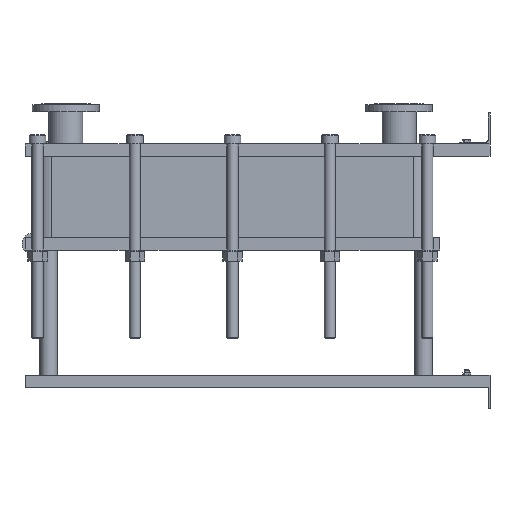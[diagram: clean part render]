
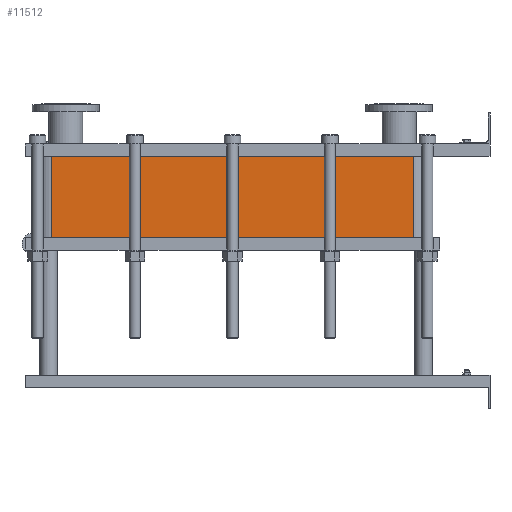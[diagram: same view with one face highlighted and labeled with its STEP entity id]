
A CAD part, left-side view. The second image highlights one B-rep face of the part: STEP entity #11512.
In plain terms, the highlighted planar face has unit normal (-1, 0, 0).
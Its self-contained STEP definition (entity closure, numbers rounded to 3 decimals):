
#1129=LINE('',#23232,#2102);
#1130=LINE('',#23236,#2103);
#1131=LINE('',#23238,#2104);
#1132=LINE('',#23239,#2105);
#2102=VECTOR('',#15887,10.);
#2103=VECTOR('',#15892,10.);
#2104=VECTOR('',#15893,10.);
#2105=VECTOR('',#15894,10.);
#3267=FACE_OUTER_BOUND('',#4093,.T.);
#4093=EDGE_LOOP('',(#10103,#10104,#10105,#10106));
#5642=VERTEX_POINT('',#23229);
#5643=VERTEX_POINT('',#23231);
#5644=VERTEX_POINT('',#23235);
#5645=VERTEX_POINT('',#23237);
#7159=EDGE_CURVE('',#5643,#5642,#1129,.T.);
#7161=EDGE_CURVE('',#5642,#5644,#1130,.T.);
#7162=EDGE_CURVE('',#5645,#5644,#1131,.T.);
#7163=EDGE_CURVE('',#5645,#5643,#1132,.T.);
#10103=ORIENTED_EDGE('',*,*,#7161,.T.);
#10104=ORIENTED_EDGE('',*,*,#7162,.F.);
#10105=ORIENTED_EDGE('',*,*,#7163,.T.);
#10106=ORIENTED_EDGE('',*,*,#7159,.T.);
#10857=PLANE('',#12751);
#11512=ADVANCED_FACE('',(#3267),#10857,.T.);
#12751=AXIS2_PLACEMENT_3D('',#23234,#15890,#15891);
#15887=DIRECTION('',(0.,0.,-1.));
#15890=DIRECTION('center_axis',(-1.,0.,0.));
#15891=DIRECTION('ref_axis',(0.,1.,0.));
#15892=DIRECTION('',(0.,-1.,0.));
#15893=DIRECTION('',(0.,0.,-1.));
#15894=DIRECTION('',(0.,1.,0.));
#23229=CARTESIAN_POINT('',(-200.,1414.,-262.2));
#23231=CARTESIAN_POINT('',(-200.,1414.,0.));
#23232=CARTESIAN_POINT('',(-200.,1414.,0.));
#23234=CARTESIAN_POINT('Origin',(-200.,248.,0.));
#23235=CARTESIAN_POINT('',(-200.,248.,-262.2));
#23236=CARTESIAN_POINT('',(-200.,539.5,-262.2));
#23237=CARTESIAN_POINT('',(-200.,248.,0.));
#23238=CARTESIAN_POINT('',(-200.,248.,0.));
#23239=CARTESIAN_POINT('',(-200.,248.,0.));
